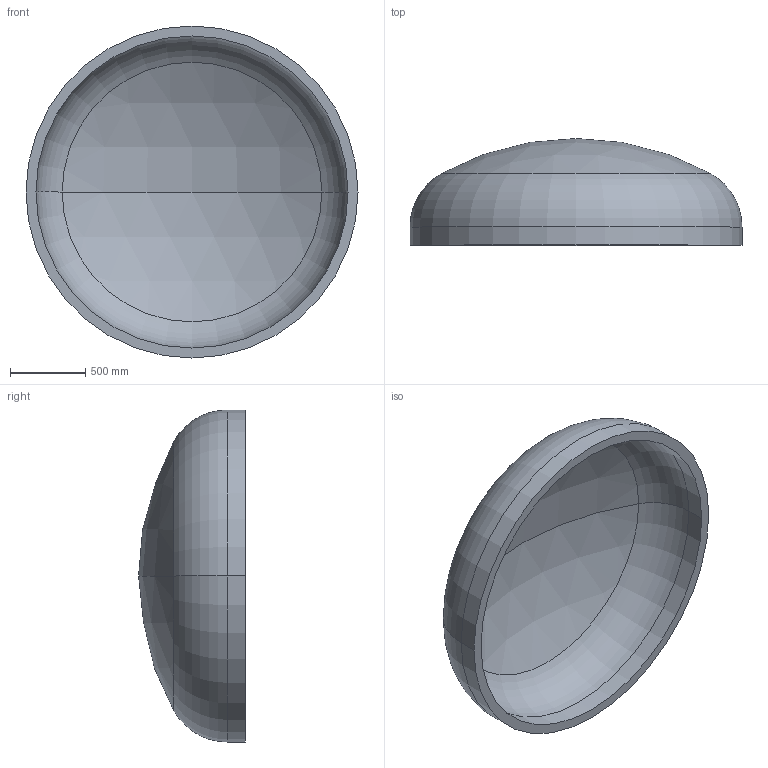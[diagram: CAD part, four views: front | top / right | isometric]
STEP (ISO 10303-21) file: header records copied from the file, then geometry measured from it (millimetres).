
FILE_DESCRIPTION (( 'STEP AP203' ), '1' );
FILE_NAME ('DIN 28013 Korbbogenform_-_Boden DIN 28013 - 2200 x 120 - I - s=66.step', '2016-07-01T14:44:48', ( '' ), ( '' ), 'SwSTEP 2.0', 'SolidWorks 2013', '' );
FILE_SCHEMA (( 'CONFIG_CONTROL_DESIGN' ));
Length unit declared in the file: millimetre
Products named in the file (1): DIN 28013 Korbbogenform_-_Boden DIN 28013 - 2200 x 120 - I - s=66
Bounding box: 2200 x 707.14 x 2200 mm (x, y, z)
Volume: 387455400.2 mm3; surface area: 12192666.8 mm2
Topology: 1 solids, 1 shells, 13 faces, 24 edges, 14 vertices
Faces by surface type: torus 4, cylinder 4, sphere 4, plane 1
Entity records: 407 total; most frequent: DIRECTION 72, CARTESIAN_POINT 52, ORIENTED_EDGE 48, AXIS2_PLACEMENT_3D 34, EDGE_CURVE 24, CIRCLE 20, EDGE_LOOP 14, VERTEX_POINT 14
